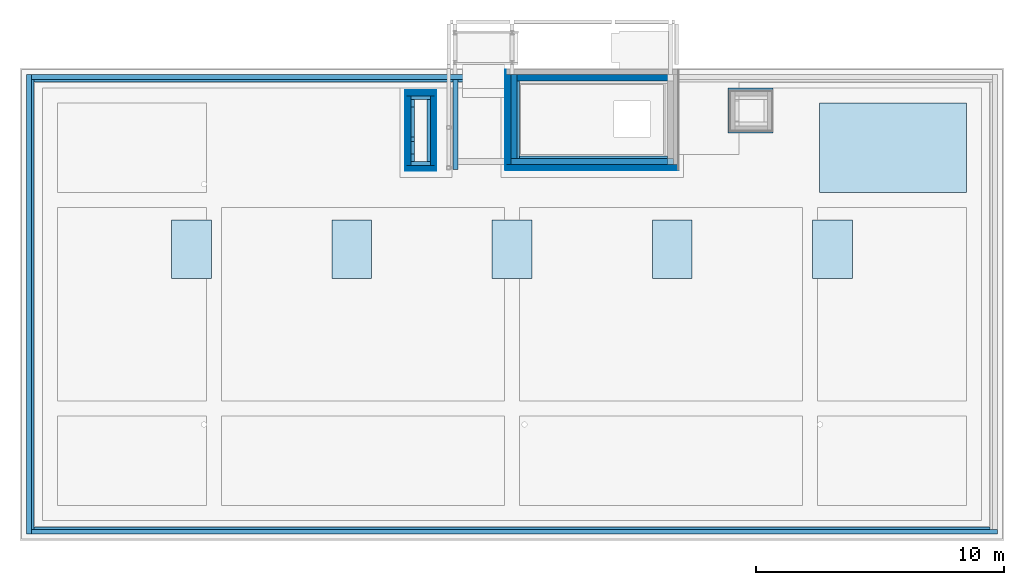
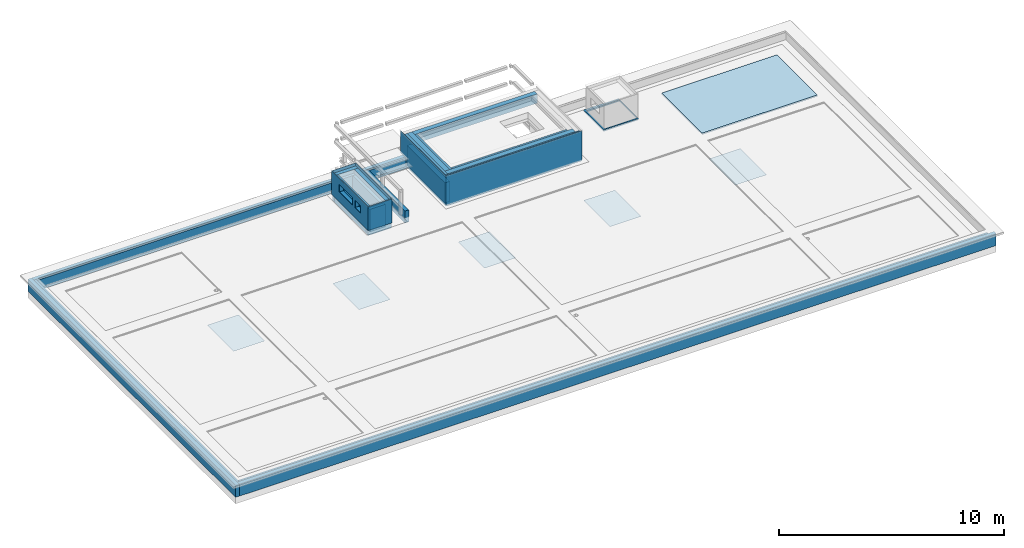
# One storey, part 6 of 8: 30 walls, 7 slabs, 7 openings.
"""IFC2X3 building model written with IfcOpenShell, lengths in centimetres."""

from ifc_helpers import new_model, entity, si_unit, converted_unit, derived_unit, direction, frame, frame_2d, origin, origin_2d_with_axis, place, context, subcontext, project, spatial, polyline, rectangle, extrude, clip, bounded_halfspace, faceted_brep, material, layer, layer_set, layer_usage, type_object, element, save


model = new_model("IFC2X3")

# Units and contexts
model_context = context("Model", 3, precision=0.001, world=origin(), true_north=direction((6.12303176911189e-17, 1.0)))
body_context = subcontext(model_context, "Body", "Model", "MODEL_VIEW")
ifc_project = project(units=[si_unit("LENGTHUNIT", "METRE", prefix="CENTI"), si_unit("AREAUNIT", "SQUARE_METRE"), si_unit("VOLUMEUNIT", "CUBIC_METRE"), converted_unit("PLANEANGLEUNIT", "DEGREE", entity("IfcRatioMeasure", 0.0174532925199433), si_unit("PLANEANGLEUNIT", "RADIAN"), dimensions=[0, 0, 0, 0, 0, 0, 0]), si_unit("MASSUNIT", "GRAM", prefix="KILO"), derived_unit("MASSDENSITYUNIT", [(si_unit("MASSUNIT", "GRAM", prefix="KILO"), 1), (si_unit("LENGTHUNIT", "METRE"), -3)]), derived_unit("MOMENTOFINERTIAUNIT", [(si_unit("LENGTHUNIT", "METRE"), 4)]), si_unit("TIMEUNIT", "SECOND"), si_unit("FREQUENCYUNIT", "HERTZ"), si_unit("THERMODYNAMICTEMPERATUREUNIT", "DEGREE_CELSIUS"), derived_unit("THERMALTRANSMITTANCEUNIT", [(si_unit("MASSUNIT", "GRAM", prefix="KILO"), 1), (si_unit("THERMODYNAMICTEMPERATUREUNIT", "KELVIN"), -1), (si_unit("TIMEUNIT", "SECOND"), -3)]), derived_unit("VOLUMETRICFLOWRATEUNIT", [(si_unit("LENGTHUNIT", "METRE"), 3), (si_unit("TIMEUNIT", "SECOND"), -1)]), si_unit("ELECTRICCURRENTUNIT", "AMPERE"), si_unit("ELECTRICVOLTAGEUNIT", "VOLT"), si_unit("POWERUNIT", "WATT"), si_unit("FORCEUNIT", "NEWTON", prefix="KILO"), si_unit("ILLUMINANCEUNIT", "LUX"), si_unit("LUMINOUSFLUXUNIT", "LUMEN"), si_unit("LUMINOUSINTENSITYUNIT", "CANDELA"), derived_unit("USERDEFINED", [(si_unit("MASSUNIT", "GRAM", prefix="KILO"), -1), (si_unit("LENGTHUNIT", "METRE"), -2), (si_unit("TIMEUNIT", "SECOND"), 3), (si_unit("LUMINOUSFLUXUNIT", "LUMEN"), 1)]), derived_unit("LINEARVELOCITYUNIT", [(si_unit("LENGTHUNIT", "METRE"), 1), (si_unit("TIMEUNIT", "SECOND"), -1)]), si_unit("PRESSUREUNIT", "PASCAL"), derived_unit("USERDEFINED", [(si_unit("LENGTHUNIT", "METRE"), -2), (si_unit("MASSUNIT", "GRAM", prefix="KILO"), 1), (si_unit("TIMEUNIT", "SECOND"), -2)]), derived_unit("LINEARFORCEUNIT", [(si_unit("MASSUNIT", "GRAM", prefix="KILO"), 1), (si_unit("LENGTHUNIT", "METRE"), 1), (si_unit("TIMEUNIT", "SECOND"), -2), (si_unit("LENGTHUNIT", "METRE"), -1)]), derived_unit("PLANARFORCEUNIT", [(si_unit("MASSUNIT", "GRAM", prefix="KILO"), 1), (si_unit("LENGTHUNIT", "METRE"), 1), (si_unit("TIMEUNIT", "SECOND"), -2), (si_unit("LENGTHUNIT", "METRE"), -2)])], contexts=[model_context])

# Site, building, storey
site_placement = place(None, origin())
site = spatial("IfcSite", under=ifc_project, at=site_placement, Name="Default", CompositionType="ELEMENT")
building_placement = place(site_placement, origin())
building = spatial("IfcBuilding", under=site, at=building_placement, CompositionType="ELEMENT")
storey_placement = place(building_placement, frame((0.0, 0.0, 970.0)))
storey = spatial("IfcBuildingStorey", under=building, at=storey_placement, Name="Poziom 2K +9,70", CompositionType="ELEMENT", Elevation=970.0)

# Slabs
ifc_material_1 = material(Name="_Beton, C25/30")
slab_type_1 = type_object("IfcSlabType", Name="Głowica 2:Głowica 2", PredefinedType="FLOOR", material=ifc_material_1)
slab_1_placement = place(storey_placement, frame((230.734891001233, 1285.12745207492, -95.0)))
element("IfcSlab", 1, at=slab_1_placement, inside=storey, type_object=slab_type_1, Name="Głowica 2:Głowica 2", ObjectType="Głowica 2:Głowica 2", PredefinedType="FLOOR", context=body_context, shape_type="Brep", body=[
    faceted_brep([(160.0, 235.0, 60.0), (0.0, 235.0, 60.0), (0.0, 185.0, 60.0), (0.0, 182.500000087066, 60.0), (0.0, 172.500000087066, 60.0), (0.0, 170.0, 60.0), (0.0, 0.0, 60.0), (72.499983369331, 0.0, 60.0), (74.9999883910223, 0.0, 60.0), (84.9999883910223, 0.0, 60.0), (87.4999883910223, 0.0, 60.0), (160.0, 0.0, 60.0), (160.0, 170.0, 60.0), (160.0, 172.500000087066, 60.0), (160.0, 182.500000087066, 60.0), (160.0, 185.0, 60.0), (100.0, 185.0, 0.0), (100.0, 105.0, 0.0), (60.0, 105.0, 0.0), (60.0, 185.0, 0.0), (58.5714286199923, 102.500000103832, 1.42857137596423), (101.428571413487, 102.500000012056, 1.42857142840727)], [[[0, 1, 2, 3, 4, 5, 6, 7, 8, 9, 10, 11, 12, 13, 14, 15]], [[16, 17, 18, 19]], [[16, 19, 1, 0]], [[19, 18, 20, 6, 5, 4, 3, 2, 1]], [[18, 17, 21, 11, 10, 9, 8, 7, 6, 20]], [[17, 16, 0, 15, 14, 13, 12, 11, 21]]]),
])
ifc_material_2 = material(Name="Domyślna powierzchnia")
slab_type_2 = type_object("IfcSlabType", Name="Głowica 4:Głowica 4", PredefinedType="FLOOR", material=ifc_material_2)
slab_2_placement = place(storey_placement, frame((-1704.265108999, 1285.12745207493, -95.0)))
element("IfcSlab", 2, at=slab_2_placement, inside=storey, type_object=slab_type_2, Name="Głowica 4:Głowica 4", ObjectType="Głowica 4:Głowica 4", PredefinedType="FLOOR", context=body_context, shape_type="Brep", body=[
    faceted_brep([(160.0, 235.0, 60.0), (0.0, 235.0, 60.0), (0.0, 185.0, 60.0), (0.0, 182.50000008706, 60.0), (0.0, 172.500000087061, 60.0), (0.0, 170.0, 60.0), (0.0, 0.0, 60.0), (72.4999883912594, 0.0, 60.0), (74.9999883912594, 0.0, 60.0), (84.9999883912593, 0.0, 60.0), (87.4999883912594, 0.0, 60.0), (160.0, 0.0, 60.0), (160.0, 170.0, 60.0), (160.0, 172.500000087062, 60.0), (160.0, 182.500000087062, 60.0), (160.0, 185.0, 60.0), (100.0, 185.0, 0.0), (100.0, 105.0, 0.0), (59.9999883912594, 105.0, 0.0), (59.9999883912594, 185.0, 0.0), (58.5714172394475, 102.500000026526, 1.42857142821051), (101.428571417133, 102.500000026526, 1.42857142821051)], [[[0, 1, 2, 3, 4, 5, 6, 7, 8, 9, 10, 11, 12, 13, 14, 15]], [[16, 17, 18, 19]], [[16, 19, 1, 0]], [[19, 18, 20, 6, 5, 4, 3, 2, 1]], [[18, 17, 21, 11, 10, 9, 8, 7, 6, 20]], [[17, 16, 0, 15, 14, 13, 12, 11, 21]]]),
])
slab_type_3 = type_object("IfcSlabType", Name="Głowica 3:Głowica 3", PredefinedType="FLOOR", material=ifc_material_1)
slab_3_placement = place(storey_placement, frame((-2349.26510660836, 1285.12745207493, -95.0)))
element("IfcSlab", 3, at=slab_3_placement, inside=storey, type_object=slab_type_3, Name="Głowica 3:Głowica 3", ObjectType="Głowica 3:Głowica 3", PredefinedType="FLOOR", context=body_context, shape_type="Brep", body=[
    faceted_brep([(160.0, 235.0, 60.0), (0.0, 235.0, 60.0), (0.0, 0.0, 60.0), (160.0, 0.0, 60.0), (100.0, 185.0, 0.0), (100.0, 105.0, 0.0), (60.0, 105.0, 0.0), (60.0, 185.0, 0.0), (57.49998600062, 187.083345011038, 2.5000139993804), (102.49998600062, 187.083321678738, 2.49998600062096), (58.5714285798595, 102.500000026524, 1.42857142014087), (101.42857142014, 102.500000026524, 1.42857142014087)], [[[0, 1, 2, 3]], [[4, 5, 6, 7]], [[4, 7, 8, 1, 0, 9]], [[7, 6, 10, 2, 1, 8]], [[6, 5, 11, 3, 2, 10]], [[5, 4, 9, 0, 3, 11]]]),
])
slab_type_4 = type_object("IfcSlabType", Name="Głowica 5:Głowica 5", PredefinedType="FLOOR", material=ifc_material_2)
slab_4_placement = place(storey_placement, frame((-1059.26510899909, 1285.12745207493, -95.0)))
element("IfcSlab", 4, at=slab_4_placement, inside=storey, type_object=slab_type_4, Name="Głowica 5:Głowica 5", ObjectType="Głowica 5:Głowica 5", PredefinedType="FLOOR", context=body_context, shape_type="Brep", body=[
    faceted_brep([(160.0, 235.0, 60.0), (0.0, 235.0, 60.0), (0.0, 0.0, 60.0), (160.0, 0.0, 60.0), (100.0, 185.0, 0.0), (100.0, 105.0, 0.0), (59.9999883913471, 105.0, 0.0), (59.9999883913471, 185.0, 0.0), (57.4999999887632, 187.083324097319, 2.49998888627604), (102.501113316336, 187.084261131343, 2.50111332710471), (58.5714172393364, 102.500000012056, 1.42857142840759), (101.428571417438, 102.500000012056, 1.4285714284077)], [[[0, 1, 2, 3]], [[4, 5, 6, 7]], [[4, 7, 8, 1, 0, 9]], [[7, 6, 10, 2, 1, 8]], [[6, 5, 11, 3, 2, 10]], [[5, 4, 9, 0, 3, 11]]]),
])
slab_type_5 = type_object("IfcSlabType", Name="Głowica 1:Głowica 1", PredefinedType="FLOOR", material=ifc_material_1)
slab_5_placement = place(storey_placement, frame((-414.265108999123, 1285.12745207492, -95.0)))
element("IfcSlab", 5, at=slab_5_placement, inside=storey, type_object=slab_type_5, Name="Głowica 1:Głowica 1", ObjectType="Głowica 1:Głowica 1", PredefinedType="FLOOR", context=body_context, shape_type="Brep", body=[
    faceted_brep([(160.0, 235.0, 60.0), (0.0, 235.0, 60.0), (0.0, 185.000013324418, 60.0), (0.0, 182.500000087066, 60.0), (0.0, 172.500000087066, 60.0), (0.0, 170.0, 60.0), (0.0, 0.0, 60.0), (72.4999883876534, 0.0, 60.0), (74.9999883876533, 0.0, 60.0), (84.9999883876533, 0.0, 60.0), (87.4999893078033, 0.0, 60.0), (160.0, 0.0, 60.0), (160.0, 170.0, 60.0), (160.0, 172.500000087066, 60.0), (160.0, 182.500000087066, 60.0), (160.0, 185.0, 60.0), (100.0, 185.0, 0.0), (100.0, 105.0, 0.0), (60.0, 105.0, 0.0), (60.0, 185.0, 0.0), (58.5714285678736, 102.500000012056, 1.4285714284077), (101.428571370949, 102.500000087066, 1.42857138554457)], [[[0, 1, 2, 3, 4, 5, 6, 7, 8, 9, 10, 11, 12, 13, 14, 15]], [[16, 17, 18, 19]], [[16, 19, 1, 0]], [[19, 18, 20, 6, 5, 4, 3, 2, 1]], [[18, 17, 21, 11, 10, 9, 8, 7, 6, 20]], [[17, 16, 0, 15, 14, 13, 12, 11, 21]]]),
])
ifc_material_3 = material(Name="Piasek")
ifc_layer_1 = layer(ifc_material_3, 8.0)
ifc_layer_set_1 = layer_set([ifc_layer_1], Name="Strop:Piasek gr. 8cm")
ifc_layer_usage_1 = layer_usage(ifc_layer_set_1, "AXIS3", "POSITIVE", 0.0)
slab_type_6 = type_object("IfcSlabType", Name="Strop:Piasek gr. 8cm", PredefinedType="FLOOR", material=ifc_layer_set_1)
slab_6_placement = place(storey_placement, origin())
element("IfcSlab", 6, at=slab_6_placement, inside=storey, type_object=slab_type_6, material=ifc_layer_usage_1, Name="Strop:Piasek gr. 8cm", ObjectType="Strop:Piasek gr. 8cm", PredefinedType="FLOOR", context=body_context, shape_type="SweptSolid", body=[
    extrude(rectangle(XDim=359.99999996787, YDim=592.359993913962, at=origin_2d_with_axis()), frame((554.554892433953, 1810.75245206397, 28.0), z_axis=(0.0, 0.0, -1.0), x_axis=(0.0, 1.0, 0.0)), (0.0, 0.0, 1.0), 7.99999999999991),
])

# Slab, opening
ifc_layer_usage_2 = layer_usage(ifc_layer_set_1, "AXIS3", "POSITIVE", 0.0)
slab_type_7 = type_object("IfcSlabType", Name="Strop:Piasek gr. 8cm", PredefinedType="FLOOR", material=ifc_layer_set_1)
slab_7_placement = place(storey_placement, frame((-109.265110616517, 1870.75245204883, 20.0)))
slab_7 = element("IfcSlab", 7, at=slab_7_placement, inside=storey, type_object=slab_type_7, material=ifc_layer_usage_2, Name="Strop:Piasek gr. 8cm", ObjectType="Strop:Piasek gr. 8cm", PredefinedType="FLOOR", context=body_context, shape_type="SweptSolid", body=[
    extrude(rectangle(XDim=180.000000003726, YDim=179.999999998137, at=frame_2d((0.0, 0.0), x_axis=(-1.0, 0.0))), frame((90.0, 90.0, 8.0), z_axis=(0.0, 0.0, -1.0), x_axis=(-1.0, 0.0, 0.0)), (0.0, 0.0, 1.0), 7.99999999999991),
])
opening_1_placement = place(slab_7_placement, frame((93.4999931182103, 88.3741974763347, 8.0)))
element("IfcOpeningElement", 8, at=opening_1_placement, cuts=slab_7, Name="Strop:Piasek gr. 8cm:2", ObjectType="Opening", context=body_context, shape_type="SweptSolid", body=[
    extrude(rectangle(XDim=160.001722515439, YDim=169.999993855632, at=origin_2d_with_axis()), frame((0.0, 0.0, 0.0), z_axis=(0.0, 0.0, -1.0), x_axis=(0.0, 1.0, 0.0)), (0.0, 0.0, 1.0), 7.99999999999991),
])

# Walls
ifc_material_4 = material(Name="_Beton C30/37")
ifc_layer_2 = layer(ifc_material_4, 25.0)
ifc_layer_set_2 = layer_set([ifc_layer_2], Name="Ściana podstawowa:Ściana żelbetowa gr. 25cm")
ifc_layer_usage_3 = layer_usage(ifc_layer_set_2, "AXIS2", "POSITIVE", -12.5)
wall_type_1 = type_object("IfcWallType", Name="Ściana podstawowa:Ściana żelbetowa gr. 25cm", PredefinedType="STANDARD", material=ifc_layer_set_2)
wall_1_placement = place(storey_placement, frame((-354.265119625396, 1755.62745200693, 0.0), z_axis=(0.0, 0.0, 1.0), x_axis=(-1.0, 0.0, 0.0)))
element("IfcWallStandardCase", 9, at=wall_1_placement, inside=storey, type_object=wall_type_1, material=ifc_layer_usage_3, Name="Ściana podstawowa:Ściana żelbetowa gr. 25cm", ObjectType="Ściana podstawowa:Ściana żelbetowa gr. 25cm", context=body_context, shape_type="SweptSolid", body=[
    extrude(rectangle(XDim=629.999997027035, YDim=24.9999999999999, at=frame_2d((314.999998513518, 3.28626015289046e-14), x_axis=(-1.0, 0.0))), origin(), (0.0, 0.0, 1.0), 109.0),
])
ifc_layer_usage_4 = layer_usage(ifc_layer_set_2, "AXIS2", "POSITIVE", -12.5)
wall_2_placement = place(storey_placement, frame((-329.265111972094, 1755.62745161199, 124.0), z_axis=(0.0, 0.0, 1.0), x_axis=(-1.0, 0.0, 0.0)))
element("IfcWallStandardCase", 10, at=wall_2_placement, inside=storey, type_object=wall_type_1, material=ifc_layer_usage_4, Name="Ściana podstawowa:Ściana żelbetowa gr. 25cm", ObjectType="Ściana podstawowa:Ściana żelbetowa gr. 25cm", context=body_context, shape_type="SweptSolid", body=[
    extrude(rectangle(XDim=654.999997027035, YDim=24.9999999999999, at=frame_2d((327.499998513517, 0.0), x_axis=(-1.0, 0.0))), origin(), (0.0, 0.0, 1.0), 49.9999999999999),
])
ifc_layer_usage_5 = layer_usage(ifc_layer_set_2, "AXIS2", "POSITIVE", -12.5)
wall_3_placement = place(storey_placement, frame((-971.765107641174, 1768.12745161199, 124.0), z_axis=(0.0, 0.0, 1.0), x_axis=(0.0, 1.0, 0.0)))
element("IfcWallStandardCase", 11, at=wall_3_placement, inside=storey, type_object=wall_type_1, material=ifc_layer_usage_5, Name="Ściana podstawowa:Ściana żelbetowa gr. 25cm", ObjectType="Ściana podstawowa:Ściana żelbetowa gr. 25cm", context=body_context, shape_type="SweptSolid", body=[
    extrude(rectangle(XDim=337.000000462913, YDim=25.0000000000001, at=frame_2d((168.500000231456, 5.41788836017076e-14), x_axis=(-1.0, 0.0))), origin(), (0.0, 0.0, 1.0), 49.9999999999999),
])
ifc_layer_usage_6 = layer_usage(ifc_layer_set_2, "AXIS2", "POSITIVE", -12.5)
wall_4_placement = place(storey_placement, frame((-959.265107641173, 2092.6274520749, 124.0)))
element("IfcWallStandardCase", 12, at=wall_4_placement, inside=storey, type_object=wall_type_1, material=ifc_layer_usage_6, Name="Ściana podstawowa:Ściana żelbetowa gr. 25cm", ObjectType="Ściana podstawowa:Ściana żelbetowa gr. 25cm", context=body_context, shape_type="SweptSolid", body=[
    extrude(rectangle(XDim=629.999995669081, YDim=25.0000000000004, at=frame_2d((314.99999783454, 0.0), x_axis=(-1.0, 0.0))), origin(), (0.0, 0.0, 1.0), 49.9999999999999),
])
ifc_layer_usage_7 = layer_usage(ifc_layer_set_2, "AXIS2", "POSITIVE", -12.5)
wall_5_placement = place(storey_placement, frame((-971.76511665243, 2105.12745209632, 0.0), z_axis=(0.0, 0.0, 1.0), x_axis=(0.0, -1.0, 0.0)))
element("IfcWallStandardCase", 13, at=wall_5_placement, inside=storey, type_object=wall_type_1, material=ifc_layer_usage_7, Name="Ściana podstawowa:Ściana żelbetowa gr. 25cm", ObjectType="Ściana podstawowa:Ściana żelbetowa gr. 25cm", context=body_context, shape_type="SweptSolid", body=[
    extrude(rectangle(XDim=337.000000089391, YDim=25.0000000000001, at=frame_2d((168.500000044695, -1.59872115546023e-14), x_axis=(-1.0, 0.0))), origin(), (0.0, 0.0, 1.0), 109.0),
])
ifc_layer_3 = layer(ifc_material_4, 20.0)
ifc_layer_set_3 = layer_set([ifc_layer_3], Name="Ściana podstawowa:Ściana żelbetowa gr. 20cm")
ifc_layer_usage_8 = layer_usage(ifc_layer_set_3, "AXIS2", "POSITIVE", -10.0)
wall_type_2 = type_object("IfcWallType", Name="Ściana podstawowa:Ściana żelbetowa gr. 20cm", PredefinedType="STANDARD", material=ifc_layer_set_3)
wall_6_placement = place(storey_placement, frame((-2924.26510369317, 2105.12745208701, 0.0), z_axis=(0.0, 0.0, 1.0), x_axis=(0.0, -1.0, 0.0)))
element("IfcWallStandardCase", 14, at=wall_6_placement, inside=storey, type_object=wall_type_2, material=ifc_layer_usage_8, Name="Ściana podstawowa:Ściana żelbetowa gr. 20cm", ObjectType="Ściana podstawowa:Ściana żelbetowa gr. 20cm", context=body_context, shape_type="SweptSolid", body=[
    extrude(rectangle(XDim=1850.0, YDim=19.9999999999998, at=frame_2d((925.0, -1.77635683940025e-15), x_axis=(-1.0, 0.0))), origin(), (0.0, 0.0, 1.0), 64.9999999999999),
])
ifc_layer_usage_9 = layer_usage(ifc_layer_set_3, "AXIS2", "POSITIVE", -10.0)
wall_7_placement = place(storey_placement, frame((-2914.26510369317, 265.127452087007, 0.0)))
element("IfcWallStandardCase", 15, at=wall_7_placement, inside=storey, type_object=wall_type_2, material=ifc_layer_usage_9, Name="Ściana podstawowa:Ściana żelbetowa gr. 20cm", ObjectType="Ściana podstawowa:Ściana żelbetowa gr. 20cm", context=body_context, shape_type="SweptSolid", body=[
    extrude(rectangle(XDim=3889.99999474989, YDim=20.0, at=frame_2d((1944.99999737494, 0.0), x_axis=(-1.0, 0.0))), origin(), (0.0, 0.0, 1.0), 64.9999999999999),
])
ifc_layer_usage_10 = layer_usage(ifc_layer_set_3, "AXIS2", "NEGATIVE", 10.0)
wall_8_placement = place(storey_placement, frame((-2914.26510369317, 2095.12745208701, 0.0)))
element("IfcWallStandardCase", 16, at=wall_8_placement, inside=storey, type_object=wall_type_2, material=ifc_layer_usage_10, Name="Ściana podstawowa:Ściana żelbetowa gr. 20cm", ObjectType="Ściana podstawowa:Ściana żelbetowa gr. 20cm", context=body_context, shape_type="SweptSolid", body=[
    extrude(rectangle(XDim=1929.99998704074, YDim=19.9999999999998, at=frame_2d((964.99999352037, -1.68753899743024e-14), x_axis=(-1.0, 0.0))), origin(), (0.0, 0.0, 1.0), 64.9999999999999),
])
ifc_layer_usage_11 = layer_usage(ifc_layer_set_3, "AXIS2", "NEGATIVE", 10.0)
wall_9_placement = place(storey_placement, frame((-1206.76511593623, 2085.127452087, 0.0), z_axis=(0.0, 0.0, 1.0), x_axis=(0.0, -1.0, 0.0)))
element("IfcWallStandardCase", 17, at=wall_9_placement, inside=storey, type_object=wall_type_2, material=ifc_layer_usage_11, Name="Ściana podstawowa:Ściana żelbetowa gr. 20cm", ObjectType="Ściana podstawowa:Ściana żelbetowa gr. 20cm", context=body_context, shape_type="SweptSolid", body=[
    extrude(rectangle(XDim=362.499999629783, YDim=20.0000000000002, at=frame_2d((181.249999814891, -7.99360577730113e-15), x_axis=(-1.0, 0.0))), origin(), (0.0, 0.0, 1.0), 64.9999999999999),
])
ifc_material_5 = material(Name="Pustak ceramiczny, klasa 15")
ifc_layer_4 = layer(ifc_material_5, 15.0)
ifc_layer_set_4 = layer_set([ifc_layer_4], Name="Ściana podstawowa:Ściana murowana gr. 15cm")
ifc_layer_usage_12 = layer_usage(ifc_layer_set_4, "AXIS2", "NEGATIVE", 7.5)
wall_type_3 = type_object("IfcWallType", Name="Ściana podstawowa:Ściana murowana gr. 15cm", PredefinedType="STANDARD", material=ifc_layer_set_4)
wall_10_placement = place(storey_placement, frame((-1386.76517166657, 2012.62759807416, 0.0)))
element("IfcWallStandardCase", 18, at=wall_10_placement, inside=storey, type_object=wall_type_3, material=ifc_layer_usage_12, Name="Ściana podstawowa:Ściana murowana gr. 15cm", ObjectType="Ściana podstawowa:Ściana murowana gr. 15cm", context=body_context, shape_type="SweptSolid", body=[
    extrude(rectangle(XDim=80.0000584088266, YDim=15.0000000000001, at=frame_2d((40.0000292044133, 0.0), x_axis=(-1.0, 0.0))), origin(), (0.0, 0.0, 1.0), 123.0),
])
ifc_layer_usage_13 = layer_usage(ifc_layer_set_4, "AXIS2", "NEGATIVE", 7.5)
wall_11_placement = place(storey_placement, frame((-1314.26511325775, 2005.12759807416, 0.0), z_axis=(0.0, 0.0, 1.0), x_axis=(0.0, -1.0, 0.0)))
element("IfcWallStandardCase", 19, at=wall_11_placement, inside=storey, type_object=wall_type_3, material=ifc_layer_usage_13, Name="Ściana podstawowa:Ściana murowana gr. 15cm", ObjectType="Ściana podstawowa:Ściana murowana gr. 15cm", context=body_context, shape_type="SweptSolid", body=[
    extrude(rectangle(XDim=250.000146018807, YDim=15.0000000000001, at=frame_2d((125.000073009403, 0.0), x_axis=(-1.0, 0.0))), origin(), (0.0, 0.0, 1.0), 123.0),
])
ifc_layer_usage_14 = layer_usage(ifc_layer_set_4, "AXIS2", "NEGATIVE", 7.5)
wall_12_placement = place(storey_placement, frame((-1306.76511325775, 1747.62745205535, 0.0), z_axis=(0.0, 0.0, 1.0), x_axis=(-1.0, 0.0, 0.0)))
element("IfcWallStandardCase", 20, at=wall_12_placement, inside=storey, type_object=wall_type_3, material=ifc_layer_usage_14, Name="Ściana podstawowa:Ściana murowana gr. 15cm", ObjectType="Ściana podstawowa:Ściana murowana gr. 15cm", context=body_context, shape_type="SweptSolid", body=[
    extrude(rectangle(XDim=80.0000584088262, YDim=15.0000000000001, at=frame_2d((40.0000292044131, 0.0), x_axis=(-1.0, 0.0))), origin(), (0.0, 0.0, 1.0), 123.0),
])

# Wall, openings
ifc_layer_usage_15 = layer_usage(ifc_layer_set_4, "AXIS2", "NEGATIVE", 7.5)
wall_13_placement = place(storey_placement, frame((-1379.26517166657, 1755.12745205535, 0.0), z_axis=(0.0, 0.0, 1.0), x_axis=(0.0, 1.0, 0.0)))
wall_13 = element("IfcWallStandardCase", 21, at=wall_13_placement, inside=storey, type_object=wall_type_3, material=ifc_layer_usage_15, Name="Ściana podstawowa:Ściana murowana gr. 15cm", ObjectType="Ściana podstawowa:Ściana murowana gr. 15cm", context=body_context, shape_type="SweptSolid", body=[
    extrude(rectangle(XDim=250.000146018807, YDim=15.0000000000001, at=frame_2d((125.000073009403, -1.19904086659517e-14), x_axis=(-1.0, 0.0))), origin(), (0.0, 0.0, 1.0), 123.0),
])
opening_2_placement = place(wall_13_placement, origin())
element("IfcOpeningElement", 22, at=opening_2_placement, cuts=wall_13, Name="Ściana podstawowa:Ściana murowana gr. 15cm", ObjectType="Opening", context=body_context, shape_type="SweptSolid", body=[
    extrude(rectangle(XDim=40.0, YDim=120.0, at=frame_2d((2.16715534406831e-13, 0.0), x_axis=(0.0, 1.0))), frame((160.000146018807, -159.9, 103.0), z_axis=(0.0, 1.0, 0.0), x_axis=(1.0, 0.0, 0.0)), (0.0, 0.0, 1.0), 304.8),
])
opening_3_placement = place(wall_13_placement, origin())
element("IfcOpeningElement", 23, at=opening_3_placement, cuts=wall_13, Name="Ściana podstawowa:Ściana murowana gr. 15cm", ObjectType="Opening", context=body_context, shape_type="SweptSolid", body=[
    extrude(rectangle(XDim=40.0, YDim=49.9999999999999, at=frame_2d((0.0, 0.0), x_axis=(0.0, 1.0))), frame((55.0, -159.9, 103.0), z_axis=(0.0, 1.0, 0.0), x_axis=(1.0, 0.0, 0.0)), (0.0, 0.0, 1.0), 304.8),
])

# Walls
ifc_material_6 = material(Name="Wełna skalna")
ifc_layer_5 = layer(ifc_material_6, 20.0)
ifc_layer_set_5 = layer_set([ifc_layer_5], Name="Ściana podstawowa:Wełna mineralna gr. 20cm")
ifc_layer_usage_16 = layer_usage(ifc_layer_set_5, "AXIS2", "POSITIVE", -10.0)
wall_type_4 = type_object("IfcWallType", Name="Ściana podstawowa:Wełna mineralna gr. 20cm", PredefinedType="STANDARD", material=ifc_layer_set_5)
wall_14_placement = place(storey_placement, frame((-309.265111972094, 1733.12745061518, 20.0), z_axis=(0.0, 0.0, 1.0), x_axis=(-1.0, 0.0, 0.0)))
element("IfcWallStandardCase", 24, at=wall_14_placement, inside=storey, type_object=wall_type_4, material=ifc_layer_usage_16, Name="Ściana podstawowa:Wełna mineralna gr. 20cm", ObjectType="Ściana podstawowa:Wełna mineralna gr. 20cm", context=body_context, shape_type="SweptSolid", body=[
    extrude(rectangle(XDim=694.999997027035, YDim=20.0000000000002, at=frame_2d((347.499998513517, 0.0), x_axis=(-1.0, 0.0))), origin(), (0.0, 0.0, 1.0), 154.0),
])
ifc_layer_usage_17 = layer_usage(ifc_layer_set_5, "AXIS2", "POSITIVE", -10.0)
wall_15_placement = place(storey_placement, frame((-994.265108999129, 1743.12745061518, 20.0), z_axis=(0.0, 0.0, 1.0), x_axis=(0.0, 1.0, 0.0)))
element("IfcWallStandardCase", 25, at=wall_15_placement, inside=storey, type_object=wall_type_4, material=ifc_layer_usage_17, Name="Ściana podstawowa:Wełna mineralna gr. 20cm", ObjectType="Ściana podstawowa:Wełna mineralna gr. 20cm", context=body_context, shape_type="Clipping", body=[
    clip(clip(extrude(rectangle(XDim=362.000001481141, YDim=19.9999999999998, at=frame_2d((181.00000074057, 0.0), x_axis=(-1.0, 0.0))), origin(), (0.0, 0.0, 1.0), 154.0), bounded_halfspace(frame((342.000001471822, 10.0, 45.0), z_axis=(-1.0, 0.0, 0.0), x_axis=(0.0, -1.0, 0.0)), True, frame((342.000001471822, 10.0, 45.0), z_axis=(-1.0, 0.0, 0.0), x_axis=(0.0, -1.0, 0.0)), polyline([(0.0, 0.0), (0.0, -45.0), (20.0, -45.0), (19.9999923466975, 0.0), (0.0, 0.0)]))), bounded_halfspace(frame((342.000001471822, -9.99999234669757, 45.0)), True, frame((342.000001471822, -9.99999234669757, 45.0)), polyline([(0.0, 0.0), (20.0, -7.65330226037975e-06), (20.0, 19.9999923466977), (0.0, 19.9999923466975), (0.0, 0.0)]))),
])
ifc_layer_usage_18 = layer_usage(ifc_layer_set_5, "AXIS2", "POSITIVE", -10.0)
wall_16_placement = place(storey_placement, frame((-1296.76511325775, 2020.12759807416, 0.0), z_axis=(0.0, 0.0, 1.0), x_axis=(0.0, -1.0, 0.0)))
element("IfcWallStandardCase", 26, at=wall_16_placement, inside=storey, type_object=wall_type_4, material=ifc_layer_usage_18, Name="Ściana podstawowa:Wełna mineralna gr. 20cm", ObjectType="Ściana podstawowa:Wełna mineralna gr. 20cm", context=body_context, shape_type="SweptSolid", body=[
    extrude(rectangle(XDim=280.000146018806, YDim=19.9999999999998, at=frame_2d((140.000073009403, 0.0), x_axis=(-1.0, 0.0))), origin(), (0.0, 0.0, 1.0), 143.0),
])
ifc_layer_usage_19 = layer_usage(ifc_layer_set_5, "AXIS2", "POSITIVE", -10.0)
wall_17_placement = place(storey_placement, frame((-1286.76511325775, 1730.12745205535, 0.0), z_axis=(0.0, 0.0, 1.0), x_axis=(-1.0, 0.0, 0.0)))
element("IfcWallStandardCase", 27, at=wall_17_placement, inside=storey, type_object=wall_type_4, material=ifc_layer_usage_19, Name="Ściana podstawowa:Wełna mineralna gr. 20cm", ObjectType="Ściana podstawowa:Wełna mineralna gr. 20cm", context=body_context, shape_type="SweptSolid", body=[
    extrude(rectangle(XDim=120.000058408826, YDim=19.9999999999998, at=frame_2d((60.000029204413, 0.0), x_axis=(-1.0, 0.0))), origin(), (0.0, 0.0, 1.0), 143.0),
])

# Wall, openings
ifc_layer_usage_20 = layer_usage(ifc_layer_set_5, "AXIS2", "POSITIVE", -10.0)
wall_18_placement = place(storey_placement, frame((-1396.76517166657, 1740.12745205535, 0.0), z_axis=(0.0, 0.0, 1.0), x_axis=(0.0, 1.0, 0.0)))
wall_18 = element("IfcWallStandardCase", 28, at=wall_18_placement, inside=storey, type_object=wall_type_4, material=ifc_layer_usage_20, Name="Ściana podstawowa:Wełna mineralna gr. 20cm", ObjectType="Ściana podstawowa:Wełna mineralna gr. 20cm", context=body_context, shape_type="SweptSolid", body=[
    extrude(rectangle(XDim=280.000146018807, YDim=19.9999999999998, at=frame_2d((140.000073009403, 0.0), x_axis=(-1.0, 0.0))), origin(), (0.0, 0.0, 1.0), 143.0),
])
opening_4_placement = place(wall_18_placement, origin())
element("IfcOpeningElement", 29, at=opening_4_placement, cuts=wall_18, Name="Ściana podstawowa:Wełna mineralna gr. 20cm", ObjectType="Opening", context=body_context, shape_type="SweptSolid", body=[
    extrude(rectangle(XDim=39.9999999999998, YDim=120.0, at=frame_2d((-1.06581410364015e-13, -1.08357767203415e-13), x_axis=(0.0, 1.0))), frame((175.000146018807, 10.0, 103.0), z_axis=(0.0, -1.0, 0.0), x_axis=(1.0, 0.0, 0.0)), (0.0, 0.0, 1.0), 20.0),
])
opening_5_placement = place(wall_18_placement, origin())
element("IfcOpeningElement", 30, at=opening_5_placement, cuts=wall_18, Name="Ściana podstawowa:Wełna mineralna gr. 20cm", ObjectType="Opening", context=body_context, shape_type="SweptSolid", body=[
    extrude(rectangle(XDim=39.9999999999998, YDim=49.9999999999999, at=frame_2d((0.0, -1.08357767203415e-13), x_axis=(0.0, 1.0))), frame((70.0, 10.0, 103.0), z_axis=(0.0, -1.0, 0.0), x_axis=(1.0, 0.0, 0.0)), (0.0, 0.0, 1.0), 20.0),
])

# Walls
ifc_layer_usage_21 = layer_usage(ifc_layer_set_5, "AXIS2", "POSITIVE", -10.0)
wall_19_placement = place(storey_placement, frame((-1406.76517166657, 2030.12759807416, 0.0)))
element("IfcWallStandardCase", 31, at=wall_19_placement, inside=storey, type_object=wall_type_4, material=ifc_layer_usage_21, Name="Ściana podstawowa:Wełna mineralna gr. 20cm", ObjectType="Ściana podstawowa:Wełna mineralna gr. 20cm", context=body_context, shape_type="SweptSolid", body=[
    extrude(rectangle(XDim=120.000058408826, YDim=19.9999999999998, at=frame_2d((60.000029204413, 0.0), x_axis=(-1.0, 0.0))), origin(), (0.0, 0.0, 1.0), 143.0),
])
ifc_material_7 = material(Name="Polistyren XPS")
ifc_layer_6 = layer(ifc_material_7, 10.0)
ifc_layer_set_6 = layer_set([ifc_layer_6], Name="Ściana podstawowa:Styropian XPS gr. 10cm")
ifc_layer_usage_22 = layer_usage(ifc_layer_set_6, "AXIS2", "NEGATIVE", 5.0)
wall_type_5 = type_object("IfcWallType", Name="Ściana podstawowa:Styropian XPS gr. 10cm", PredefinedType="STANDARD", material=ifc_layer_set_6)
wall_20_placement = place(storey_placement, frame((-2909.26511743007, 275.127657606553, 20.0), z_axis=(0.0, 0.0, 1.0), x_axis=(0.0, 1.0, 0.0)))
element("IfcWallStandardCase", 32, at=wall_20_placement, inside=storey, type_object=wall_type_5, material=ifc_layer_usage_22, Name="Ściana podstawowa:Styropian XPS gr. 10cm", ObjectType="Ściana podstawowa:Styropian XPS gr. 10cm", context=body_context, shape_type="SweptSolid", body=[
    extrude(rectangle(XDim=1810.0, YDim=10.0000000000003, at=frame_2d((905.0, 0.0), x_axis=(-1.0, 0.0))), origin(), (0.0, 0.0, 1.0), 45.0000000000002),
])
ifc_layer_usage_23 = layer_usage(ifc_layer_set_6, "AXIS2", "POSITIVE", -5.0)
wall_21_placement = place(storey_placement, frame((-2904.26511743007, 280.127657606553, 20.0)))
element("IfcWallStandardCase", 33, at=wall_21_placement, inside=storey, type_object=wall_type_5, material=ifc_layer_usage_23, Name="Ściana podstawowa:Styropian XPS gr. 10cm", ObjectType="Ściana podstawowa:Styropian XPS gr. 10cm", context=body_context, shape_type="SweptSolid", body=[
    extrude(rectangle(XDim=3850.00002015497, YDim=10.0, at=frame_2d((1925.00001007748, -1.11022302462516e-14), x_axis=(-1.0, 0.0))), origin(), (0.0, 0.0, 1.0), 45.0000000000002),
])
ifc_layer_usage_24 = layer_usage(ifc_layer_set_6, "AXIS2", "POSITIVE", -5.0)
wall_22_placement = place(storey_placement, frame((-1004.26510899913, 2080.127452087, 20.0), z_axis=(0.0, 0.0, 1.0), x_axis=(-1.0, 0.0, 0.0)))
element("IfcWallStandardCase", 34, at=wall_22_placement, inside=storey, type_object=wall_type_5, material=ifc_layer_usage_24, Name="Ściana podstawowa:Styropian XPS gr. 10cm", ObjectType="Ściana podstawowa:Styropian XPS gr. 10cm", context=body_context, shape_type="SweptSolid", body=[
    extrude(rectangle(XDim=1900.0, YDim=10.0000000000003, at=frame_2d((950.0, -4.70734562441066e-14), x_axis=(-1.0, 0.0))), origin(), (0.0, 0.0, 1.0), 45.0000000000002),
])
ifc_layer_7 = layer(ifc_material_6, 10.0)
ifc_layer_set_7 = layer_set([ifc_layer_7], Name="Ściana podstawowa:Wełna mineralna gr. 10cm")
ifc_layer_usage_25 = layer_usage(ifc_layer_set_7, "AXIS2", "POSITIVE", -5.0)
wall_type_6 = type_object("IfcWallType", Name="Ściana podstawowa:Wełna mineralna gr. 10cm", PredefinedType="STANDARD", material=ifc_layer_set_7)
wall_23_placement = place(storey_placement, frame((-954.265107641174, 1768.1274520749, 156.0), z_axis=(0.0, 0.0, 1.0), x_axis=(0.0, 1.0, 0.0)))
element("IfcWallStandardCase", 35, at=wall_23_placement, inside=storey, type_object=wall_type_6, material=ifc_layer_usage_25, Name="Ściana podstawowa:Wełna mineralna gr. 10cm", ObjectType="Ściana podstawowa:Wełna mineralna gr. 10cm", context=body_context, shape_type="SweptSolid", body=[
    extrude(rectangle(XDim=311.999979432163, YDim=9.99999999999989, at=frame_2d((155.999989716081, -2.8421709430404e-14), x_axis=(-1.0, 0.0))), origin(), (0.0, 0.0, 1.0), 18.0000000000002),
])
ifc_layer_usage_26 = layer_usage(ifc_layer_set_7, "AXIS2", "POSITIVE", -5.0)
wall_24_placement = place(storey_placement, frame((-949.265107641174, 1773.1274520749, 156.0)))
element("IfcWallStandardCase", 36, at=wall_24_placement, inside=storey, type_object=wall_type_6, material=ifc_layer_usage_26, Name="Ściana podstawowa:Wełna mineralna gr. 10cm", ObjectType="Ściana podstawowa:Wełna mineralna gr. 10cm", context=body_context, shape_type="SweptSolid", body=[
    extrude(rectangle(XDim=595.000119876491, YDim=9.99999999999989, at=frame_2d((297.500059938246, 0.0), x_axis=(-1.0, 0.0))), origin(), (0.0, 0.0, 1.0), 18.0000000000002),
])
ifc_material_8 = material(Name="Tynk gipsowy")
ifc_layer_8 = layer(ifc_material_8, 2.0)
ifc_layer_set_8 = layer_set([ifc_layer_8], Name="Ściana podstawowa:Tynk zewnętrzny gr. 2cm")
ifc_layer_usage_27 = layer_usage(ifc_layer_set_8, "AXIS2", "POSITIVE", -1.0)
wall_type_7 = type_object("IfcWallType", Name="Ściana podstawowa:Tynk zewnętrzny gr. 2cm", PredefinedType="STANDARD", material=ifc_layer_set_8)
wall_25_placement = place(storey_placement, frame((-308.265111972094, 1722.12745061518, 20.0), z_axis=(0.0, 0.0, 1.0), x_axis=(-1.0, 0.0, 0.0)))
element("IfcWallStandardCase", 37, at=wall_25_placement, inside=storey, type_object=wall_type_7, material=ifc_layer_usage_27, Name="Ściana podstawowa:Tynk zewnętrzny gr. 2cm", ObjectType="Ściana podstawowa:Tynk zewnętrzny gr. 2cm", context=body_context, shape_type="SweptSolid", body=[
    extrude(rectangle(XDim=696.999997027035, YDim=1.99999999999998, at=frame_2d((348.499998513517, 3.05311331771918e-15), x_axis=(-1.0, 0.0))), origin(), (0.0, 0.0, 1.0), 164.0),
])
ifc_layer_usage_28 = layer_usage(ifc_layer_set_8, "AXIS2", "POSITIVE", -1.0)
wall_26_placement = place(storey_placement, frame((-1005.26510899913, 1722.12745061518, 20.0), z_axis=(0.0, 0.0, 1.0), x_axis=(0.0, 1.0, 0.0)))
element("IfcWallStandardCase", 38, at=wall_26_placement, inside=storey, type_object=wall_type_7, material=ifc_layer_usage_28, Name="Ściana podstawowa:Tynk zewnętrzny gr. 2cm", ObjectType="Ściana podstawowa:Tynk zewnętrzny gr. 2cm", context=body_context, shape_type="Clipping", body=[
    clip(clip(extrude(rectangle(XDim=403.00000148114, YDim=1.99999999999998, at=frame_2d((201.50000074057, 0.0), x_axis=(-1.0, 0.0))), origin(), (0.0, 0.0, 1.0), 164.0), bounded_halfspace(frame((363.000001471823, 1.0, 45.0), z_axis=(-1.0, 0.0, 0.0), x_axis=(0.0, -1.0, 0.0)), True, frame((363.000001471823, 1.0, 45.0), z_axis=(-1.0, 0.0, 0.0), x_axis=(0.0, -1.0, 0.0)), polyline([(0.0, 0.0), (0.0, -45.0), (2.0, -45.0), (2.0, 0.0), (0.0, 0.0)]))), bounded_halfspace(frame((363.000001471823, -1.0, 45.0)), True, frame((363.000001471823, -1.0, 45.0)), polyline([(0.0, 0.0), (40.0, 0.0), (40.0, 2.0), (0.0, 2.0), (0.0, 0.0)]))),
])
ifc_layer_usage_29 = layer_usage(ifc_layer_set_8, "AXIS2", "NEGATIVE", 1.0)
wall_27_placement = place(storey_placement, frame((-1408.76517166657, 1719.12745205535, 28.0)))
element("IfcWallStandardCase", 39, at=wall_27_placement, inside=storey, type_object=wall_type_7, material=ifc_layer_usage_29, Name="Ściana podstawowa:Tynk zewnętrzny gr. 2cm", ObjectType="Ściana podstawowa:Tynk zewnętrzny gr. 2cm", context=body_context, shape_type="SweptSolid", body=[
    extrude(rectangle(XDim=124.000058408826, YDim=1.99999999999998, at=frame_2d((62.0000292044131, 4.7795101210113e-14), x_axis=(-1.0, 0.0))), origin(), (0.0, 0.0, 1.0), 130.000211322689),
])

# Wall, openings
ifc_layer_usage_30 = layer_usage(ifc_layer_set_8, "AXIS2", "NEGATIVE", 1.0)
wall_28_placement = place(storey_placement, frame((-1407.76517166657, 2042.12759807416, 28.0), z_axis=(0.0, 0.0, 1.0), x_axis=(0.0, -1.0, 0.0)))
wall_28 = element("IfcWallStandardCase", 40, at=wall_28_placement, inside=storey, type_object=wall_type_7, material=ifc_layer_usage_30, Name="Ściana podstawowa:Tynk zewnętrzny gr. 2cm", ObjectType="Ściana podstawowa:Tynk zewnętrzny gr. 2cm", context=body_context, shape_type="SweptSolid", body=[
    extrude(rectangle(XDim=322.000146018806, YDim=1.99999999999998, at=frame_2d((161.000073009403, -6.66133814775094e-15), x_axis=(-1.0, 0.0))), origin(), (0.0, 0.0, 1.0), 130.000211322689),
])
opening_6_placement = place(wall_28_placement, origin())
element("IfcOpeningElement", 41, at=opening_6_placement, cuts=wall_28, Name="Ściana podstawowa:Tynk zewnętrzny gr. 2cm", ObjectType="Opening", context=body_context, shape_type="SweptSolid", body=[
    extrude(rectangle(XDim=39.9999999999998, YDim=120.0, at=frame_2d((1.06581410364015e-13, -1.08357767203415e-13), x_axis=(0.0, 1.0))), frame((127.0, 1.0, 75.0), z_axis=(0.0, -1.0, 0.0), x_axis=(1.0, 0.0, 0.0)), (0.0, 0.0, 1.0), 2.0),
])
opening_7_placement = place(wall_28_placement, origin())
element("IfcOpeningElement", 42, at=opening_7_placement, cuts=wall_28, Name="Ściana podstawowa:Tynk zewnętrzny gr. 2cm", ObjectType="Opening", context=body_context, shape_type="SweptSolid", body=[
    extrude(rectangle(XDim=39.9999999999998, YDim=49.9999999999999, at=frame_2d((0.0, -1.08357767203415e-13), x_axis=(0.0, 1.0))), frame((232.000146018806, 1.0, 75.0), z_axis=(0.0, -1.0, 0.0), x_axis=(1.0, 0.0, 0.0)), (0.0, 0.0, 1.0), 2.0),
])

# Walls
ifc_layer_usage_31 = layer_usage(ifc_layer_set_8, "AXIS2", "POSITIVE", -1.0)
wall_29_placement = place(storey_placement, frame((-1406.76517166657, 2041.12759807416, 28.0)))
element("IfcWallStandardCase", 43, at=wall_29_placement, inside=storey, type_object=wall_type_7, material=ifc_layer_usage_31, Name="Ściana podstawowa:Tynk zewnętrzny gr. 2cm", ObjectType="Ściana podstawowa:Tynk zewnętrzny gr. 2cm", context=body_context, shape_type="SweptSolid", body=[
    extrude(rectangle(XDim=122.000058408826, YDim=2.00000000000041, at=frame_2d((61.0000292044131, -6.29496454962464e-14), x_axis=(-1.0, 0.0))), origin(), (0.0, 0.0, 1.0), 130.000211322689),
])
ifc_layer_usage_32 = layer_usage(ifc_layer_set_8, "AXIS2", "POSITIVE", -1.0)
wall_30_placement = place(storey_placement, frame((-1285.76511325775, 2040.12759807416, 28.0), z_axis=(0.0, 0.0, 1.0), x_axis=(0.0, -1.0, 0.0)))
element("IfcWallStandardCase", 44, at=wall_30_placement, inside=storey, type_object=wall_type_7, material=ifc_layer_usage_32, Name="Ściana podstawowa:Tynk zewnętrzny gr. 2cm", ObjectType="Ściana podstawowa:Tynk zewnętrzny gr. 2cm", context=body_context, shape_type="SweptSolid", body=[
    extrude(rectangle(XDim=320.000146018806, YDim=1.99999999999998, at=frame_2d((160.000073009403, -7.32747196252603e-15), x_axis=(-1.0, 0.0))), origin(), (0.0, 0.0, 1.0), 130.000211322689),
])

save(model, "model.ifc")
